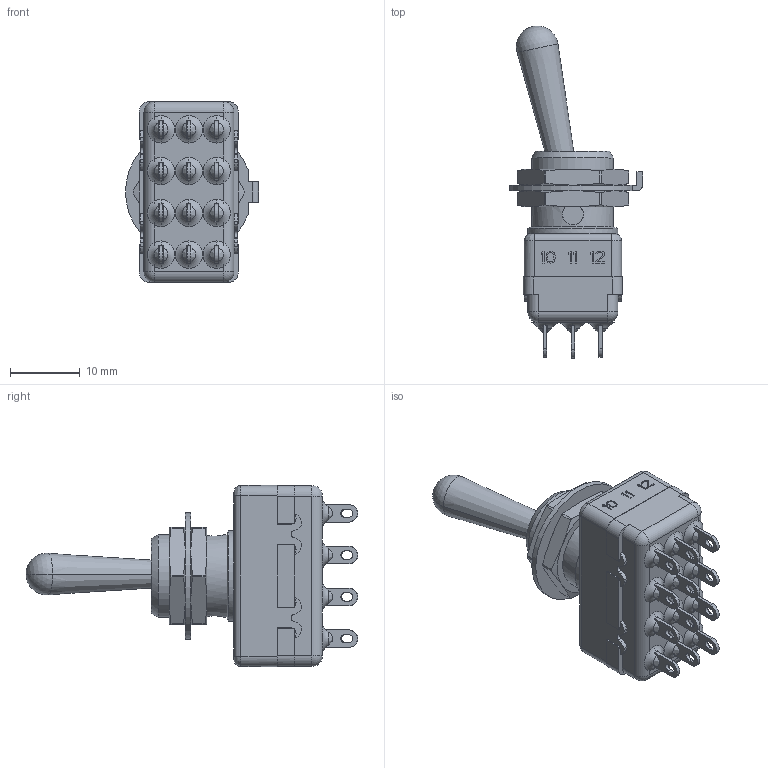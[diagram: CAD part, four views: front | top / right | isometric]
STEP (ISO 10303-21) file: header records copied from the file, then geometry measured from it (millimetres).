
FILE_DESCRIPTION((''),'2;1');
FILE_NAME('12166','2008-09-23T',('gdanezan'),(''),'PRO/ENGINEER BY PARAMETRIC TECHNOLOGY CORPORATION, 2007030','PRO/ENGINEER BY PARAMETRIC TECHNOLOGY CORPORATION, 2007030','');
FILE_SCHEMA(('CONFIG_CONTROL_DESIGN'));
Length unit declared in the file: millimetre
Products named in the file (1): 12166
Bounding box: 19.1 x 47.66 x 26 mm (x, y, z)
Volume: 3981.8 mm3; surface area: 7452.8 mm2
Topology: 6 solids, 6 shells, 1248 faces, 3725 edges, 2428 vertices
Faces by surface type: plane 901, cylinder 215, cone 48, bspline 44, torus 26, sphere 14
Entity records: 44784 total; most frequent: CARTESIAN_POINT 11261, ORIENTED_EDGE 7442, DIRECTION 6456, EDGE_CURVE 3721, VECTOR 2818, LINE 2818, VERTEX_POINT 2428, AXIS2_PLACEMENT_3D 1819
